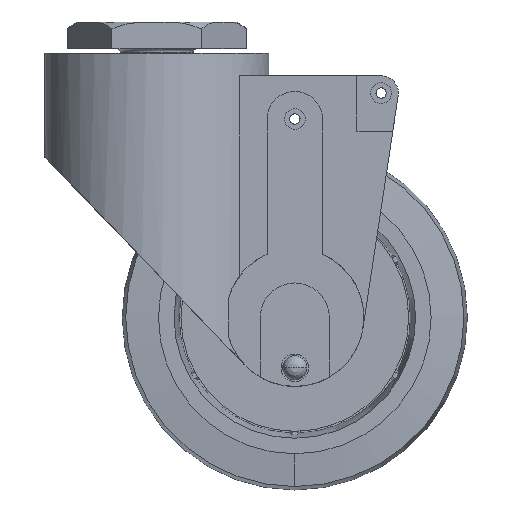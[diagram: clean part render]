
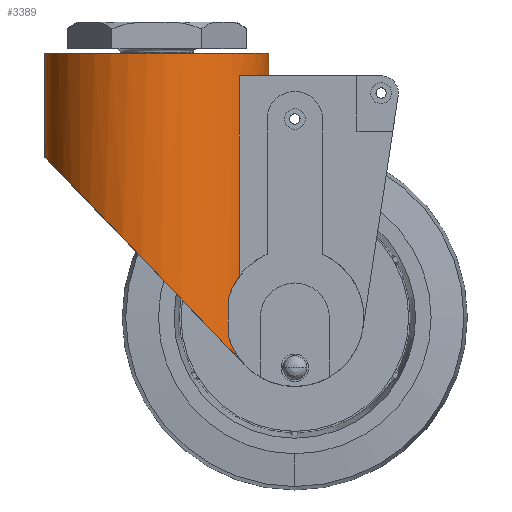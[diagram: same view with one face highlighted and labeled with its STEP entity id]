
A CAD part, front view. The second image highlights one B-rep face of the part: STEP entity #3389.
In plain terms, the highlighted cylindrical face has radius 32.5 mm (diameter 65 mm), a partial arc.
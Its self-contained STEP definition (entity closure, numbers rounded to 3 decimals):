
#320=CARTESIAN_POINT('',(32.5,0.0,-6.6));
#321=VERTEX_POINT('',#320);
#322=CARTESIAN_POINT('',(32.5,0.0,0.0));
#323=VERTEX_POINT('',#322);
#324=CARTESIAN_POINT('',(32.5,0.0,-6.6));
#325=DIRECTION('',(0.0,0.0,1.0));
#326=VECTOR('',#325,6.6);
#327=LINE('',#324,#326);
#328=EDGE_CURVE('',#321,#323,#327,.T.);
#401=CARTESIAN_POINT('',(-32.5,0.,-30.));
#402=VERTEX_POINT('',#401);
#410=CARTESIAN_POINT('',(-32.5,0.,0.0));
#411=VERTEX_POINT('',#410);
#412=CARTESIAN_POINT('',(-32.5,0.,-30.));
#413=DIRECTION('',(0.0,0.0,1.0));
#414=VECTOR('',#413,30.);
#415=LINE('',#412,#414);
#416=EDGE_CURVE('',#402,#411,#415,.T.);
#2022=CARTESIAN_POINT('',(23.922,-22.,-6.6));
#2023=VERTEX_POINT('',#2022);
#2024=CARTESIAN_POINT('',(0.0,0.0,-6.6));
#2025=DIRECTION('',(0.0,0.0,-1.0));
#2026=DIRECTION('',(1.0,0.0,0.0));
#2027=AXIS2_PLACEMENT_3D('',#2024,#2025,#2026);
#2028=CIRCLE('',#2027,32.5);
#2029=EDGE_CURVE('',#321,#2023,#2028,.T.);
#2398=CARTESIAN_POINT('',(23.922,-22.,-64.705));
#2399=VERTEX_POINT('',#2398);
#2400=CARTESIAN_POINT('',(23.922,-22.,-6.6));
#2401=DIRECTION('',(0.0,0.0,-1.0));
#2402=VECTOR('',#2401,58.105);
#2403=LINE('',#2400,#2402);
#2404=EDGE_CURVE('',#2023,#2399,#2403,.T.);
#3262=CARTESIAN_POINT('',(20.767,-25.,-71.116));
#3263=VERTEX_POINT('',#3262);
#3271=CARTESIAN_POINT('',(20.767,-25.,-82.084));
#3272=VERTEX_POINT('',#3271);
#3273=CARTESIAN_POINT('',(20.767,-25.,-82.084));
#3274=DIRECTION('',(0.0,0.0,1.0));
#3275=VECTOR('',#3274,10.968);
#3276=LINE('',#3273,#3275);
#3277=EDGE_CURVE('',#3272,#3263,#3276,.T.);
#3298=CARTESIAN_POINT('',(20.767,-25.,-71.116));
#3299=CARTESIAN_POINT('',(20.771,-24.996,-71.1));
#3300=CARTESIAN_POINT('',(20.776,-24.992,-71.084));
#3301=CARTESIAN_POINT('',(20.952,-24.846,-70.471));
#3302=CARTESIAN_POINT('',(21.151,-24.677,-69.885));
#3303=CARTESIAN_POINT('',(21.595,-24.29,-68.749));
#3304=CARTESIAN_POINT('',(21.841,-24.07,-68.198));
#3305=CARTESIAN_POINT('',(22.369,-23.58,-67.14));
#3306=CARTESIAN_POINT('',(22.651,-23.31,-66.633));
#3307=CARTESIAN_POINT('',(23.24,-22.723,-65.672));
#3308=CARTESIAN_POINT('',(23.547,-22.405,-65.217));
#3309=CARTESIAN_POINT('',(23.88,-22.045,-64.762));
#3310=CARTESIAN_POINT('',(23.901,-22.023,-64.733));
#3311=CARTESIAN_POINT('',(23.922,-22.,-64.705));
#3312=B_SPLINE_CURVE_WITH_KNOTS('',3,(#3298,#3299,#3300,#3301,#3302,#3303,#3304,#3305,#3306,#3307,#3308,#3309,#3310,#3311),.UNSPECIFIED.,.F.,.U.,(4,2,2,2,2,2,4),(20.141,20.19,22.025,23.861,25.696,27.532,27.654),.UNSPECIFIED.);
#3313=EDGE_CURVE('',#3263,#2399,#3312,.T.);
#3326=CARTESIAN_POINT('',(0.0,0.0,0.0));
#3327=DIRECTION('',(0.0,0.0,-1.0));
#3328=DIRECTION('',(1.0,0.0,0.0));
#3329=AXIS2_PLACEMENT_3D('',#3326,#3327,#3328);
#3330=CYLINDRICAL_SURFACE('',#3329,32.5);
#3331=ORIENTED_EDGE('',*,*,#328,.T.);
#3332=CARTESIAN_POINT('',(12.5,-30.,0.0));
#3333=VERTEX_POINT('',#3332);
#3334=CARTESIAN_POINT('',(0.0,0.0,0.0));
#3335=DIRECTION('',(0.0,0.0,1.0));
#3336=DIRECTION('',(1.0,0.0,0.0));
#3337=AXIS2_PLACEMENT_3D('',#3334,#3335,#3336);
#3338=CIRCLE('',#3337,32.5);
#3339=EDGE_CURVE('',#3333,#323,#3338,.T.);
#3340=ORIENTED_EDGE('',*,*,#3339,.F.);
#3341=CARTESIAN_POINT('',(0.0,0.0,0.0));
#3342=DIRECTION('',(0.0,0.0,1.0));
#3343=DIRECTION('',(1.0,0.0,0.0));
#3344=AXIS2_PLACEMENT_3D('',#3341,#3342,#3343);
#3345=CIRCLE('',#3344,32.5);
#3346=EDGE_CURVE('',#411,#3333,#3345,.T.);
#3347=ORIENTED_EDGE('',*,*,#3346,.F.);
#3348=ORIENTED_EDGE('',*,*,#416,.F.);
#3349=CARTESIAN_POINT('',(23.922,-22.,-88.733));
#3350=VERTEX_POINT('',#3349);
#3351=CARTESIAN_POINT('',(0.0,0.0,-63.831));
#3352=DIRECTION('',(0.721,0.0,0.693));
#3353=DIRECTION('',(0.693,0.0,-0.721));
#3354=AXIS2_PLACEMENT_3D('',#3351,#3352,#3353);
#3355=ELLIPSE('',#3354,46.913,32.5);
#3356=EDGE_CURVE('',#402,#3350,#3355,.T.);
#3357=ORIENTED_EDGE('',*,*,#3356,.T.);
#3358=CARTESIAN_POINT('',(23.922,-22.,-88.495));
#3359=VERTEX_POINT('',#3358);
#3360=CARTESIAN_POINT('',(23.922,-22.,-88.495));
#3361=DIRECTION('',(0.0,0.0,-1.0));
#3362=VECTOR('',#3361,0.238);
#3363=LINE('',#3360,#3362);
#3364=EDGE_CURVE('',#3359,#3350,#3363,.T.);
#3365=ORIENTED_EDGE('',*,*,#3364,.F.);
#3366=CARTESIAN_POINT('',(23.922,-22.,-88.495));
#3367=CARTESIAN_POINT('',(23.901,-22.023,-88.467));
#3368=CARTESIAN_POINT('',(23.88,-22.045,-88.438));
#3369=CARTESIAN_POINT('',(23.547,-22.405,-87.983));
#3370=CARTESIAN_POINT('',(23.24,-22.723,-87.528));
#3371=CARTESIAN_POINT('',(22.651,-23.31,-86.567));
#3372=CARTESIAN_POINT('',(22.369,-23.58,-86.06));
#3373=CARTESIAN_POINT('',(21.841,-24.07,-85.002));
#3374=CARTESIAN_POINT('',(21.595,-24.29,-84.451));
#3375=CARTESIAN_POINT('',(21.151,-24.677,-83.315));
#3376=CARTESIAN_POINT('',(20.952,-24.846,-82.729));
#3377=CARTESIAN_POINT('',(20.776,-24.992,-82.116));
#3378=CARTESIAN_POINT('',(20.771,-24.996,-82.1));
#3379=CARTESIAN_POINT('',(20.767,-25.,-82.084));
#3380=B_SPLINE_CURVE_WITH_KNOTS('',3,(#3366,#3367,#3368,#3369,#3370,#3371,#3372,#3373,#3374,#3375,#3376,#3377,#3378,#3379),.UNSPECIFIED.,.F.,.U.,(4,2,2,2,2,2,4),(1.713,1.835,3.671,5.506,7.342,9.177,9.226),.UNSPECIFIED.);
#3381=EDGE_CURVE('',#3359,#3272,#3380,.T.);
#3382=ORIENTED_EDGE('',*,*,#3381,.T.);
#3383=ORIENTED_EDGE('',*,*,#3277,.T.);
#3384=ORIENTED_EDGE('',*,*,#3313,.T.);
#3385=ORIENTED_EDGE('',*,*,#2404,.F.);
#3386=ORIENTED_EDGE('',*,*,#2029,.F.);
#3387=EDGE_LOOP('',(#3331,#3340,#3347,#3348,#3357,#3365,#3382,#3383,#3384,#3385,#3386));
#3388=FACE_OUTER_BOUND('',#3387,.T.);
#3389=ADVANCED_FACE('',(#3388),#3330,.T.);
